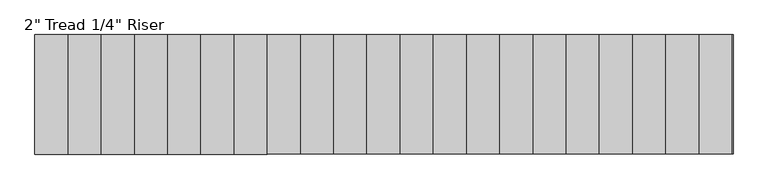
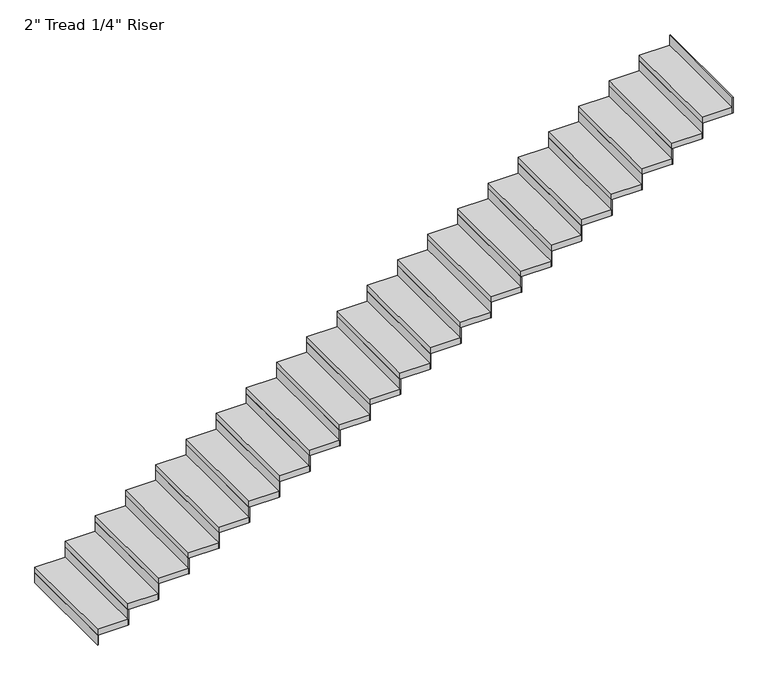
"""IFC4 building model written with IfcOpenShell, lengths in millimetres: stair flight geometry."""

from ifc_helpers import new_model, si_unit, frame, origin, origin_with_axes, place, context, project, spatial, polyline, outline, extrude, source, transform, mapped, element, save


def stair_flight_59b35711(model_context):
    return source(origin(), model_context, "Body", "SweptSolid", [
        extrude(outline(polyline([(60465.3810647, -68793.8034511), (60459.0310647, -68793.8034511), (60459.0310647, -67879.4034511), (60465.3810647, -67879.4034511), (60465.3810647, -68793.8034511)])), origin_with_axes(), (0.0, 0.0, 1.0), 87.7454545),
        extrude(outline(polyline([(60713.0310647, -67879.4034511), (60713.0310647, -68793.8034511), (60459.0310647, -68793.8034511), (60459.0310647, -67879.4034511), (60713.0310647, -67879.4034511)])), frame((0.0, 0.0, 87.7454545), z_axis=(0.0, 0.0, 1.0), x_axis=(1.0, 0.0, 0.0)), (0.0, 0.0, 1.0), 50.8),
        extrude(outline(polyline([(60719.3810647, -68793.8034511), (60713.0310647, -68793.8034511), (60713.0310647, -67879.4034511), (60719.3810647, -67879.4034511), (60719.3810647, -68793.8034511)])), frame((0.0, 0.0, 87.7454545), z_axis=(0.0, 0.0, 1.0), x_axis=(1.0, 0.0, 0.0)), (0.0, 0.0, 1.0), 138.5454545),
        extrude(outline(polyline([(60967.0310647, -67879.4034511), (60967.0310647, -68793.8034511), (60713.0310647, -68793.8034511), (60713.0310647, -67879.4034511), (60967.0310647, -67879.4034511)])), frame((0.0, 0.0, 226.2909091), z_axis=(0.0, 0.0, 1.0), x_axis=(1.0, 0.0, 0.0)), (0.0, 0.0, 1.0), 50.8),
        extrude(outline(polyline([(60973.3810647, -68793.8034511), (60967.0310647, -68793.8034511), (60967.0310647, -67879.4034511), (60973.3810647, -67879.4034511), (60973.3810647, -68793.8034511)])), frame((0.0, 0.0, 226.2909091), z_axis=(0.0, 0.0, 1.0), x_axis=(1.0, 0.0, 0.0)), (0.0, 0.0, 1.0), 138.5454545),
        extrude(outline(polyline([(61221.0310647, -67879.4034511), (61221.0310647, -68793.8034511), (60967.0310647, -68793.8034511), (60967.0310647, -67879.4034511), (61221.0310647, -67879.4034511)])), frame((0.0, 0.0, 364.8363636), z_axis=(0.0, 0.0, 1.0), x_axis=(1.0, 0.0, 0.0)), (0.0, 0.0, 1.0), 50.8),
        extrude(outline(polyline([(61227.3810647, -68793.8034511), (61221.0310647, -68793.8034511), (61221.0310647, -67879.4034511), (61227.3810647, -67879.4034511), (61227.3810647, -68793.8034511)])), frame((0.0, 0.0, 364.8363636), z_axis=(0.0, 0.0, 1.0), x_axis=(1.0, 0.0, 0.0)), (0.0, 0.0, 1.0), 138.5454545),
        extrude(outline(polyline([(61475.0310647, -67879.4034511), (61475.0310647, -68793.8034511), (61221.0310647, -68793.8034511), (61221.0310647, -67879.4034511), (61475.0310647, -67879.4034511)])), frame((0.0, 0.0, 503.3818182), z_axis=(0.0, 0.0, 1.0), x_axis=(1.0, 0.0, 0.0)), (0.0, 0.0, 1.0), 50.8),
        extrude(outline(polyline([(61481.3810647, -68793.8034511), (61475.0310647, -68793.8034511), (61475.0310647, -67879.4034511), (61481.3810647, -67879.4034511), (61481.3810647, -68793.8034511)])), frame((0.0, 0.0, 503.3818182), z_axis=(0.0, 0.0, 1.0), x_axis=(1.0, 0.0, 0.0)), (0.0, 0.0, 1.0), 138.5454545),
        extrude(outline(polyline([(61729.0310647, -67879.4034511), (61729.0310647, -68793.8034511), (61475.0310647, -68793.8034511), (61475.0310647, -67879.4034511), (61729.0310647, -67879.4034511)])), frame((0.0, 0.0, 641.9272727), z_axis=(0.0, 0.0, 1.0), x_axis=(1.0, 0.0, 0.0)), (0.0, 0.0, 1.0), 50.8),
        extrude(outline(polyline([(61735.3810647, -68793.8034511), (61729.0310647, -68793.8034511), (61729.0310647, -67879.4034511), (61735.3810647, -67879.4034511), (61735.3810647, -68793.8034511)])), frame((0.0, 0.0, 641.9272727), z_axis=(0.0, 0.0, 1.0), x_axis=(1.0, 0.0, 0.0)), (0.0, 0.0, 1.0), 138.5454545),
        extrude(outline(polyline([(61983.0310647, -67879.4034511), (61983.0310647, -68793.8034511), (61729.0310647, -68793.8034511), (61729.0310647, -67879.4034511), (61983.0310647, -67879.4034511)])), frame((0.0, 0.0, 780.4727273), z_axis=(0.0, 0.0, 1.0), x_axis=(1.0, 0.0, 0.0)), (0.0, 0.0, 1.0), 50.8),
        extrude(outline(polyline([(61989.3810647, -68793.8034511), (61983.0310647, -68793.8034511), (61983.0310647, -67879.4034511), (61989.3810647, -67879.4034511), (61989.3810647, -68793.8034511)])), frame((0.0, 0.0, 780.4727273), z_axis=(0.0, 0.0, 1.0), x_axis=(1.0, 0.0, 0.0)), (0.0, 0.0, 1.0), 138.5454545),
        extrude(outline(polyline([(62237.0310647, -67879.4034511), (62237.0310647, -68793.8034511), (61983.0310647, -68793.8034511), (61983.0310647, -67879.4034511), (62237.0310647, -67879.4034511)])), frame((0.0, 0.0, 919.0181818), z_axis=(0.0, 0.0, 1.0), x_axis=(1.0, 0.0, 0.0)), (0.0, 0.0, 1.0), 50.8),
        extrude(outline(polyline([(62243.3810647, -68793.8034511), (62237.0310647, -68793.8034511), (62237.0310647, -67879.4034511), (62243.3810647, -67879.4034511), (62243.3810647, -68793.8034511)])), frame((0.0, 0.0, 919.0181818), z_axis=(0.0, 0.0, 1.0), x_axis=(1.0, 0.0, 0.0)), (0.0, 0.0, 1.0), 138.5454545),
        extrude(outline(polyline([(62491.0310647, -67879.4034511), (62491.0310647, -68793.8034511), (62237.0310647, -68793.8034511), (62237.0310647, -67879.4034511), (62491.0310647, -67879.4034511)])), frame((0.0, 0.0, 1057.5636364), z_axis=(0.0, 0.0, 1.0), x_axis=(1.0, 0.0, 0.0)), (0.0, 0.0, 1.0), 50.8),
        extrude(outline(polyline([(62497.3810647, -68793.8034511), (62491.0310647, -68793.8034511), (62491.0310647, -67879.4034511), (62497.3810647, -67879.4034511), (62497.3810647, -68793.8034511)])), frame((0.0, 0.0, 1057.5636364), z_axis=(0.0, 0.0, 1.0), x_axis=(1.0, 0.0, 0.0)), (0.0, 0.0, 1.0), 138.5454545),
        extrude(outline(polyline([(62745.0310647, -67879.4034511), (62745.0310647, -68793.8034511), (62491.0310647, -68793.8034511), (62491.0310647, -67879.4034511), (62745.0310647, -67879.4034511)])), frame((0.0, 0.0, 1196.1090909), z_axis=(0.0, 0.0, 1.0), x_axis=(1.0, 0.0, 0.0)), (0.0, 0.0, 1.0), 50.8),
        extrude(outline(polyline([(62751.3810647, -68793.8034511), (62745.0310647, -68793.8034511), (62745.0310647, -67879.4034511), (62751.3810647, -67879.4034511), (62751.3810647, -68793.8034511)])), frame((0.0, 0.0, 1196.1090909), z_axis=(0.0, 0.0, 1.0), x_axis=(1.0, 0.0, 0.0)), (0.0, 0.0, 1.0), 138.5454545),
        extrude(outline(polyline([(62999.0310647, -67879.4034511), (62999.0310647, -68793.8034511), (62745.0310647, -68793.8034511), (62745.0310647, -67879.4034511), (62999.0310647, -67879.4034511)])), frame((0.0, 0.0, 1334.6545455), z_axis=(0.0, 0.0, 1.0), x_axis=(1.0, 0.0, 0.0)), (0.0, 0.0, 1.0), 50.8),
        extrude(outline(polyline([(63005.3810647, -68793.8034511), (62999.0310647, -68793.8034511), (62999.0310647, -67879.4034511), (63005.3810647, -67879.4034511), (63005.3810647, -68793.8034511)])), frame((0.0, 0.0, 1334.6545455), z_axis=(0.0, 0.0, 1.0), x_axis=(1.0, 0.0, 0.0)), (0.0, 0.0, 1.0), 138.5454545),
        extrude(outline(polyline([(63253.0310647, -67879.4034511), (63253.0310647, -68793.8034511), (62999.0310647, -68793.8034511), (62999.0310647, -67879.4034511), (63253.0310647, -67879.4034511)])), frame((0.0, 0.0, 1473.2), z_axis=(0.0, 0.0, 1.0), x_axis=(1.0, 0.0, 0.0)), (0.0, 0.0, 1.0), 50.8),
        extrude(outline(polyline([(63259.3810647, -68793.8034511), (63253.0310647, -68793.8034511), (63253.0310647, -67879.4034511), (63259.3810647, -67879.4034511), (63259.3810647, -68793.8034511)])), frame((0.0, 0.0, 1473.2), z_axis=(0.0, 0.0, 1.0), x_axis=(1.0, 0.0, 0.0)), (0.0, 0.0, 1.0), 138.5454545),
        extrude(outline(polyline([(63507.0310647, -67879.4034511), (63507.0310647, -68793.8034511), (63253.0310647, -68793.8034511), (63253.0310647, -67879.4034511), (63507.0310647, -67879.4034511)])), frame((0.0, 0.0, 1611.7454545), z_axis=(0.0, 0.0, 1.0), x_axis=(1.0, 0.0, 0.0)), (0.0, 0.0, 1.0), 50.8),
        extrude(outline(polyline([(63513.3810647, -68793.8034511), (63507.0310647, -68793.8034511), (63507.0310647, -67879.4034511), (63513.3810647, -67879.4034511), (63513.3810647, -68793.8034511)])), frame((0.0, 0.0, 1611.7454545), z_axis=(0.0, 0.0, 1.0), x_axis=(1.0, 0.0, 0.0)), (0.0, 0.0, 1.0), 138.5454545),
        extrude(outline(polyline([(63761.0310647, -67879.4034511), (63761.0310647, -68793.8034511), (63507.0310647, -68793.8034511), (63507.0310647, -67879.4034511), (63761.0310647, -67879.4034511)])), frame((0.0, 0.0, 1750.2909091), z_axis=(0.0, 0.0, 1.0), x_axis=(1.0, 0.0, 0.0)), (0.0, 0.0, 1.0), 50.8),
        extrude(outline(polyline([(63767.3810647, -68793.8034511), (63761.0310647, -68793.8034511), (63761.0310647, -67879.4034511), (63767.3810647, -67879.4034511), (63767.3810647, -68793.8034511)])), frame((0.0, 0.0, 1750.2909091), z_axis=(0.0, 0.0, 1.0), x_axis=(1.0, 0.0, 0.0)), (0.0, 0.0, 1.0), 138.5454545),
        extrude(outline(polyline([(64015.0310647, -67879.4034511), (64015.0310647, -68793.8034511), (63761.0310647, -68793.8034511), (63761.0310647, -67879.4034511), (64015.0310647, -67879.4034511)])), frame((0.0, 0.0, 1888.8363636), z_axis=(0.0, 0.0, 1.0), x_axis=(1.0, 0.0, 0.0)), (0.0, 0.0, 1.0), 50.8),
        extrude(outline(polyline([(64021.3810647, -68793.8034511), (64015.0310647, -68793.8034511), (64015.0310647, -67879.4034511), (64021.3810647, -67879.4034511), (64021.3810647, -68793.8034511)])), frame((0.0, 0.0, 1888.8363636), z_axis=(0.0, 0.0, 1.0), x_axis=(1.0, 0.0, 0.0)), (0.0, 0.0, 1.0), 138.5454545),
        extrude(outline(polyline([(64269.0310647, -67879.4034511), (64269.0310647, -68793.8034511), (64015.0310647, -68793.8034511), (64015.0310647, -67879.4034511), (64269.0310647, -67879.4034511)])), frame((0.0, 0.0, 2027.3818182), z_axis=(0.0, 0.0, 1.0), x_axis=(1.0, 0.0, 0.0)), (0.0, 0.0, 1.0), 50.8),
        extrude(outline(polyline([(64275.3810647, -68793.8034511), (64269.0310647, -68793.8034511), (64269.0310647, -67879.4034511), (64275.3810647, -67879.4034511), (64275.3810647, -68793.8034511)])), frame((0.0, 0.0, 2027.3818182), z_axis=(0.0, 0.0, 1.0), x_axis=(1.0, 0.0, 0.0)), (0.0, 0.0, 1.0), 138.5454545),
        extrude(outline(polyline([(64523.0310647, -67879.4034511), (64523.0310647, -68793.8034511), (64269.0310647, -68793.8034511), (64269.0310647, -67879.4034511), (64523.0310647, -67879.4034511)])), frame((0.0, 0.0, 2165.9272727), z_axis=(0.0, 0.0, 1.0), x_axis=(1.0, 0.0, 0.0)), (0.0, 0.0, 1.0), 50.8),
        extrude(outline(polyline([(64529.3810647, -68793.8034511), (64523.0310647, -68793.8034511), (64523.0310647, -67879.4034511), (64529.3810647, -67879.4034511), (64529.3810647, -68793.8034511)])), frame((0.0, 0.0, 2165.9272727), z_axis=(0.0, 0.0, 1.0), x_axis=(1.0, 0.0, 0.0)), (0.0, 0.0, 1.0), 138.5454545),
        extrude(outline(polyline([(64777.0310647, -67879.4034511), (64777.0310647, -68793.8034511), (64523.0310647, -68793.8034511), (64523.0310647, -67879.4034511), (64777.0310647, -67879.4034511)])), frame((0.0, 0.0, 2304.4727273), z_axis=(0.0, 0.0, 1.0), x_axis=(1.0, 0.0, 0.0)), (0.0, 0.0, 1.0), 50.8),
        extrude(outline(polyline([(64783.3810647, -68793.8034511), (64777.0310647, -68793.8034511), (64777.0310647, -67879.4034511), (64783.3810647, -67879.4034511), (64783.3810647, -68793.8034511)])), frame((0.0, 0.0, 2304.4727273), z_axis=(0.0, 0.0, 1.0), x_axis=(1.0, 0.0, 0.0)), (0.0, 0.0, 1.0), 138.5454545),
        extrude(outline(polyline([(65031.0310647, -67879.4034511), (65031.0310647, -68793.8034511), (64777.0310647, -68793.8034511), (64777.0310647, -67879.4034511), (65031.0310647, -67879.4034511)])), frame((0.0, 0.0, 2443.0181818), z_axis=(0.0, 0.0, 1.0), x_axis=(1.0, 0.0, 0.0)), (0.0, 0.0, 1.0), 50.8),
        extrude(outline(polyline([(65037.3810647, -68793.8034511), (65031.0310647, -68793.8034511), (65031.0310647, -67879.4034511), (65037.3810647, -67879.4034511), (65037.3810647, -68793.8034511)])), frame((0.0, 0.0, 2443.0181818), z_axis=(0.0, 0.0, 1.0), x_axis=(1.0, 0.0, 0.0)), (0.0, 0.0, 1.0), 138.5454545),
        extrude(outline(polyline([(65285.0310647, -67879.4034511), (65285.0310647, -68793.8034511), (65031.0310647, -68793.8034511), (65031.0310647, -67879.4034511), (65285.0310647, -67879.4034511)])), frame((0.0, 0.0, 2581.5636364), z_axis=(0.0, 0.0, 1.0), x_axis=(1.0, 0.0, 0.0)), (0.0, 0.0, 1.0), 50.8),
        extrude(outline(polyline([(65291.3810647, -68793.8034511), (65285.0310647, -68793.8034511), (65285.0310647, -67879.4034511), (65291.3810647, -67879.4034511), (65291.3810647, -68793.8034511)])), frame((0.0, 0.0, 2581.5636364), z_axis=(0.0, 0.0, 1.0), x_axis=(1.0, 0.0, 0.0)), (0.0, 0.0, 1.0), 138.5454545),
        extrude(outline(polyline([(65539.0310647, -67879.4034511), (65539.0310647, -68793.8034511), (65285.0310647, -68793.8034511), (65285.0310647, -67879.4034511), (65539.0310647, -67879.4034511)])), frame((0.0, 0.0, 2720.1090909), z_axis=(0.0, 0.0, 1.0), x_axis=(1.0, 0.0, 0.0)), (0.0, 0.0, 1.0), 50.8),
        extrude(outline(polyline([(65545.3810647, -68793.8034511), (65539.0310647, -68793.8034511), (65539.0310647, -67879.4034511), (65545.3810647, -67879.4034511), (65545.3810647, -68793.8034511)])), frame((0.0, 0.0, 2720.1090909), z_axis=(0.0, 0.0, 1.0), x_axis=(1.0, 0.0, 0.0)), (0.0, 0.0, 1.0), 138.5454545),
        extrude(outline(polyline([(65799.3810647, -68793.8034511), (65793.0310647, -68793.8034511), (65793.0310647, -67879.4034511), (65799.3810647, -67879.4034511), (65799.3810647, -68793.8034511)])), frame((0.0, 0.0, 2858.6545455), z_axis=(0.0, 0.0, 1.0), x_axis=(1.0, 0.0, 0.0)), (0.0, 0.0, 1.0), 138.5454545),
        extrude(outline(polyline([(65793.0310647, -67879.4034511), (65793.0310647, -68793.8034511), (65539.0310647, -68793.8034511), (65539.0310647, -67879.4034511), (65793.0310647, -67879.4034511)])), frame((0.0, 0.0, 2858.6545455), z_axis=(0.0, 0.0, 1.0), x_axis=(1.0, 0.0, 0.0)), (0.0, 0.0, 1.0), 50.8),
    ])


if __name__ == "__main__":
    model = new_model("IFC4")
    model_context = context("Model", 3, world=origin())
    ifc_project = project(units=[si_unit("LENGTHUNIT", "METRE", prefix="MILLI")], contexts=[model_context])
    site = spatial("IfcSite", under=ifc_project)
    building = spatial("IfcBuilding", under=site)
    placement = place(None, origin())
    stair_flight_shape = stair_flight_59b35711(model_context)
    element("IfcStairFlight", 1, ObjectType="2\" Tread 1/4\" Riser", at=placement, inside=building, context=model_context, shape_type="MappedRepresentation", body=[
        mapped(stair_flight_shape, transform((0.0, 0.0, 0.0), x_axis=(1.0, 0.0, 0.0), y_axis=(0.0, 1.0, 0.0), z_axis=(0.0, 0.0, 1.0))),
    ])
    save(model, "model.ifc")
